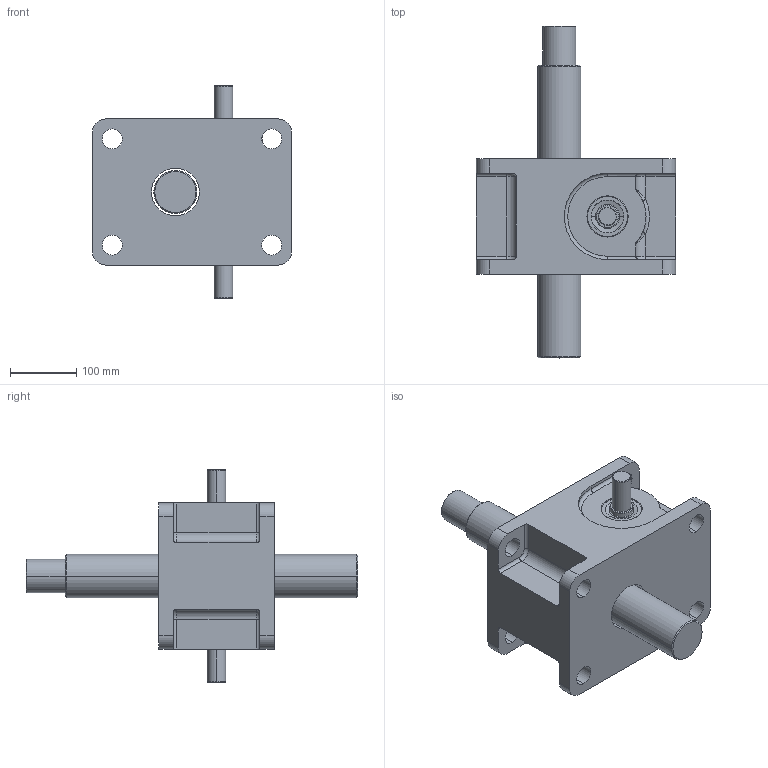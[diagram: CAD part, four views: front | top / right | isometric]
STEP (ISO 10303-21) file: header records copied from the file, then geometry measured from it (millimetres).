
FILE_DESCRIPTION (( 'STEP AP203' ), '1' );
FILE_NAME ('LMA20.STEP', '2008-07-31T00:27:30', ( 'Cliente' ), ( 'Home' ), 'SwSTEP 2.0', 'SolidWorks 2008', '' );
FILE_SCHEMA (( 'CONFIG_CONTROL_DESIGN' ));
Length unit declared in the file: millimetre
Products named in the file (6): carcaça_Valor predeterminado; LMA20; fuso_Valor predeterminado; sem_fim_Valor predeterminado; Taper Roller Bearing_DIN_DIN 720 - 30206 - 16,SI,NC,16; EspelharTaper Roller Bearing_DIN_DIN 720 - 30206 - 16,SI,NC,16
Assembly tree (5 placements, depth 2):
  LMA20
    fuso_Valor predeterminado
    sem_fim_Valor predeterminado
    EspelharTaper Roller Bearing_DIN_DIN 720 - 30206 - 16,SI,NC,16
    Taper Roller Bearing_DIN_DIN 720 - 30206 - 16,SI,NC,16
    carcaça_Valor predeterminado
Bounding box: 300 x 500 x 320 mm (x, y, z)
Volume: 10164016 mm3; surface area: 584140 mm2
Topology: 5 solids, 5 shells, 219 faces, 503 edges, 305 vertices
Faces by surface type: cylinder 94, cone 54, plane 45, torus 22, bspline 4
Entity records: 7352 total; most frequent: CARTESIAN_POINT 1551, DIRECTION 1208, ORIENTED_EDGE 1006, EDGE_CURVE 503, AXIS2_PLACEMENT_3D 494, VERTEX_POINT 305, CIRCLE 271, EDGE_LOOP 254
